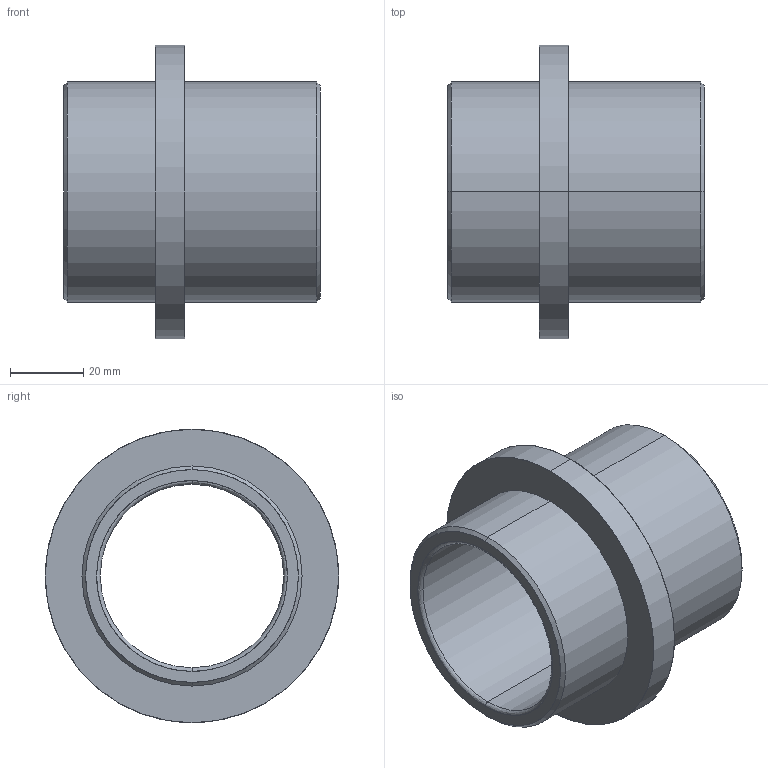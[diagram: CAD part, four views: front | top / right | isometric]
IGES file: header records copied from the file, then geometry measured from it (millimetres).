
Start section: START RECORD GO HERE.
Global section: file name: G403-50X70.igs; native system: DASSAULT SYSTEMES CATIA V5 R20 - www.3ds.com; preprocessor: CATIA Version 5 Release 20 ; author: Utente; organization: NB04-ASUS; date: 20210421.132409; units: millimetre
Bounding box: 70 x 80 x 80 mm (x, y, z)
Surface area: 30461.6 mm2 (no closed solid volume)
Topology: 0 solids, 0 shells, 20 faces, 128 edges, 128 vertices
Faces by surface type: revolution 16, plane 4
